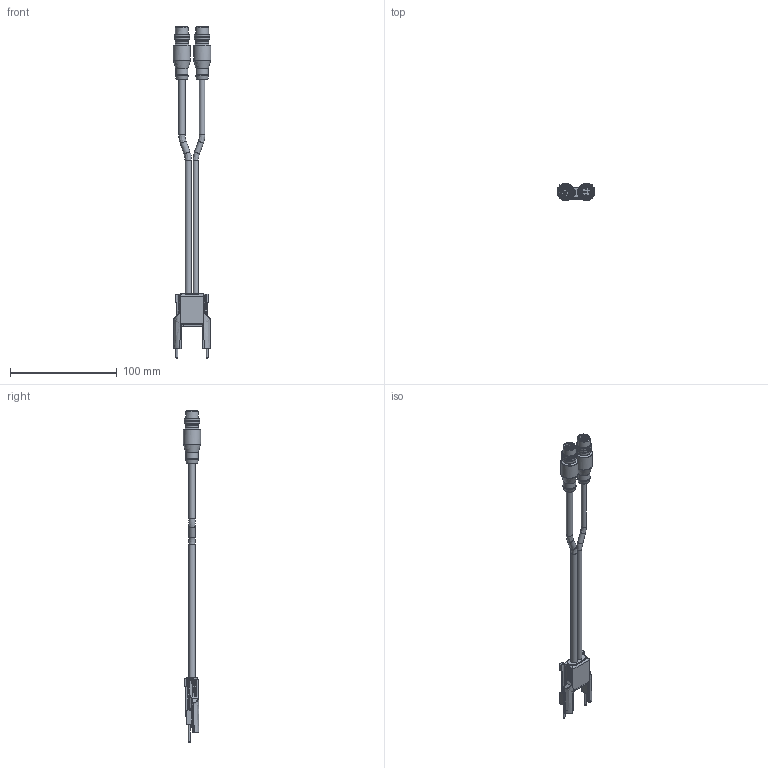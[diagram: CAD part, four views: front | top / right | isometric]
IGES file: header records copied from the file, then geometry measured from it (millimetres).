
Global section: file name: C:\Users\lrossetti\OneDrive - Datalogic S.p.a\Desktop\SG4E plugs - DSD igs\DSD-0340.igs; native system: NX V12.0; preprocessor: SIEMENS PLM Software NX 12.0; date: 20200605.160550; units: millimetre
Bounding box: 35 x 16 x 310.6 mm (x, y, z)
Surface area: 23270.6 mm2 (no closed solid volume)
Topology: 0 solids, 0 shells, 1245 faces, 7376 edges, 6938 vertices
Faces by surface type: bspline 1245
